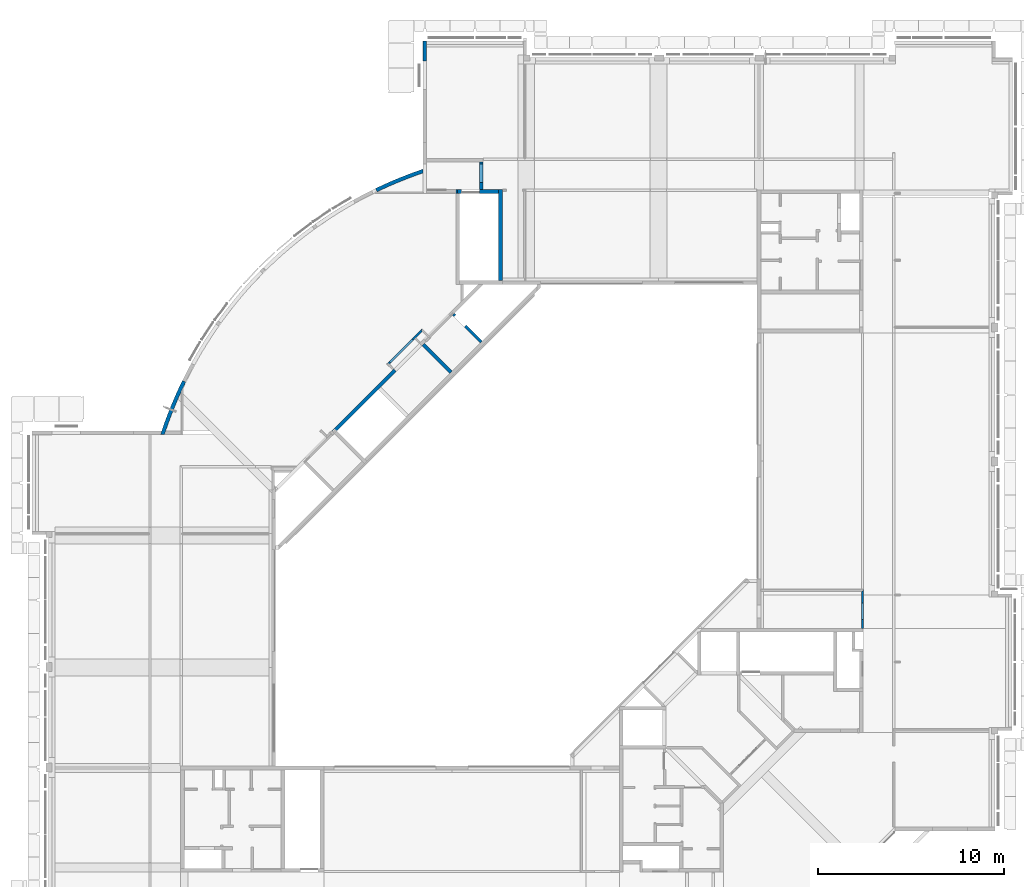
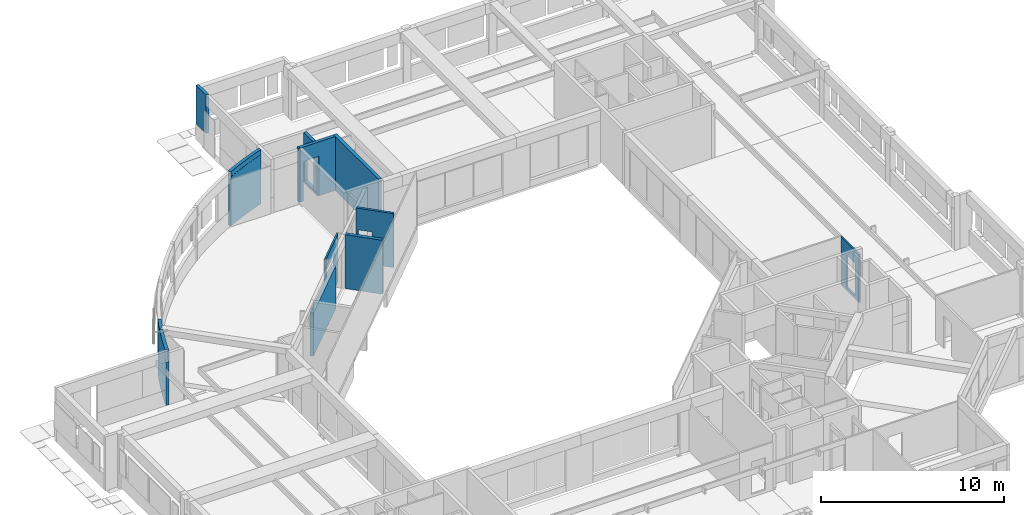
# One storey, part 23 of 26: 12 walls.
"""IFC4X3_ADD2 building model written with IfcOpenShell, lengths in millimetres."""

from ifc_helpers import new_model, si_unit, direction, frame, origin_with_axes, place, context, subcontext, project, spatial, faceted_brep, polygons, source, transform, mapped, type_object, type_shapes, element, save


model = new_model("IFC4X3_ADD2")

# Units and contexts
model_context = context("Model", 3, precision=1e-05, world=origin_with_axes(), true_north=direction((0.0, 1.0)))
body_context = subcontext(model_context, "Body", "Model", "MODEL_VIEW")
ifc_project = project(units=[si_unit("LENGTHUNIT", "METRE", prefix="MILLI"), si_unit("AREAUNIT", "SQUARE_METRE"), si_unit("VOLUMEUNIT", "CUBIC_METRE"), si_unit("PLANEANGLEUNIT", "RADIAN"), si_unit("TIMEUNIT", "SECOND"), si_unit("MASSUNIT", "GRAM")], contexts=[model_context])

# Site, building, storey
site_placement = place(None, origin_with_axes())
site = spatial("IfcSite", under=ifc_project, at=site_placement, Name="Site", CompositionType="ELEMENT")
building_placement = place(site_placement, origin_with_axes())
building = spatial("IfcBuilding", under=site, at=building_placement, Name="IFC Building Story")
storey_placement = place(building_placement, frame((0.0, 0.0, 7200.0), z_axis=(0.0, 0.0, 1.0), x_axis=(1.0, 0.0, 0.0)))
storey = spatial("IfcBuildingStorey", under=building, at=storey_placement, Name="020", Elevation=7200.0)

# Walls
wall_type_1 = type_object("IfcWallType", Name="Basic Wall_BB_10.01.41#21_Gipskartonwand_EI60_43dB_MS100 _ 25.50.25_ 100 mm53", PredefinedType="NOTDEFINED")
shared_shape_1 = source(origin_with_axes(), body_context, "Body", "Brep", [
    faceted_brep([(1999.999999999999, 49.9999999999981, 0.0), (1999.999999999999, 49.9999999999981, 3200.0), (1999.999999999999, 37.4999999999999, 3200.0), (1999.999999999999, 37.4999999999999, 0.0), (-87.50000000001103, 49.9999999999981, 3200.0), (-87.50000000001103, 37.4999999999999, 3200.0), (-87.50000000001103, 49.9999999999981, 0.0), (-87.50000000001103, 37.4999999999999, 0.0), (1524.999999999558, 49.9999999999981, 2359.999999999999), (1524.999999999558, 49.9999999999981, 195.0), (1524.999999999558, 37.4999999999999, 195.0), (1524.999999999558, 37.4999999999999, 2359.999999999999), (634.999999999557, 49.9999999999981, 195.0), (634.999999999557, 37.4999999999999, 195.0), (634.999999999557, 49.9999999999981, 2359.999999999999), (634.999999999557, 37.4999999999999, 2359.999999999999)], [[[0, 1, 2, 3]], [[1, 4, 5, 2]], [[4, 6, 7, 5]], [[6, 0, 3, 7]], [[8, 9, 10, 11]], [[9, 12, 13, 10]], [[12, 14, 15, 13]], [[14, 8, 11, 15]], [[9, 8, 14, 12], [1, 0, 6, 4]], [[15, 11, 10, 13], [7, 3, 2, 5]]], outer=[[True], [True], [True], [True], [True], [True], [True], [True], [False, True], [False, True]]),
    faceted_brep([(1999.999999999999, 37.4999999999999, 0.0), (1999.999999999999, 37.4999999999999, 3200.0), (2000.000000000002, 25.0, 3200.0), (2000.000000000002, 25.0, 0.0), (-74.99999999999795, 37.5000000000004, 3200.0), (-74.99999999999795, 25.0, 3200.0), (-74.99999999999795, 37.5000000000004, 0.0), (-74.99999999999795, 25.0, 0.0), (1524.999999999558, 37.4999999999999, 2359.999999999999), (1524.999999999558, 37.4999999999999, 195.0), (1524.999999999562, 25.0, 195.0), (1524.999999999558, 25.0, 2359.999999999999), (634.999999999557, 37.4999999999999, 195.0), (634.999999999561, 25.0, 195.0), (634.999999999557, 37.4999999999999, 2359.999999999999), (634.999999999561, 25.0, 2359.999999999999)], [[[0, 1, 2, 3]], [[1, 4, 5, 2]], [[4, 6, 7, 5]], [[6, 0, 3, 7]], [[8, 9, 10, 11]], [[9, 12, 13, 10]], [[12, 14, 15, 13]], [[14, 8, 11, 15]], [[9, 8, 14, 12], [1, 0, 6, 4]], [[15, 11, 10, 13], [7, 3, 2, 5]]], outer=[[True], [True], [True], [True], [True], [True], [True], [True], [False, True], [False, True]]),
    faceted_brep([(2000.000000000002, 25.0, 0.0), (2000.000000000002, 25.0, 3200.0), (2000.000000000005, -25.0, 3200.0), (2000.000000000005, -25.0, 0.0), (-24.999999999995, 24.9999999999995, 3200.0), (-24.999999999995, -25.0, 3200.0), (-24.999999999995, 24.9999999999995, 0.0), (-24.999999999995, -25.0, 0.0), (1524.999999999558, 25.0, 2359.999999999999), (1524.999999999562, 25.0, 195.0), (1524.999999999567, -25.0, 195.0), (1524.999999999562, -25.0, 2359.999999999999), (634.999999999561, 25.0, 195.0), (634.9999999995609, -25.0, 195.0), (634.999999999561, 25.0, 2359.999999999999), (634.9999999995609, -25.0, 2359.999999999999)], [[[0, 1, 2, 3]], [[1, 4, 5, 2]], [[4, 6, 7, 5]], [[6, 0, 3, 7]], [[8, 9, 10, 11]], [[9, 12, 13, 10]], [[12, 14, 15, 13]], [[14, 8, 11, 15]], [[9, 8, 14, 12], [1, 0, 6, 4]], [[15, 11, 10, 13], [7, 3, 2, 5]]], outer=[[True], [True], [True], [True], [True], [True], [True], [True], [False, True], [False, True]]),
    faceted_brep([(2000.000000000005, -25.0, 0.0), (2000.000000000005, -25.0, 3200.0), (2000.000000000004, -37.5000000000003, 3200.0), (2000.000000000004, -37.5000000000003, 0.0), (-12.50000000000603, -24.9999999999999, 3200.0), (-12.50000000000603, -37.5000000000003, 3200.0), (-12.50000000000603, -24.9999999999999, 0.0), (-12.50000000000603, -37.5000000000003, 0.0), (1524.999999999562, -25.0, 2359.999999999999), (1524.999999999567, -25.0, 195.0), (1524.999999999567, -37.5000000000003, 195.0), (1524.999999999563, -37.5000000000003, 2359.999999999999), (634.9999999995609, -25.0, 195.0), (634.9999999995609, -37.5000000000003, 195.0), (634.9999999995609, -25.0, 2359.999999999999), (634.9999999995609, -37.5000000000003, 2359.999999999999)], [[[0, 1, 2, 3]], [[1, 4, 5, 2]], [[4, 6, 7, 5]], [[6, 0, 3, 7]], [[8, 9, 10, 11]], [[9, 12, 13, 10]], [[12, 14, 15, 13]], [[14, 8, 11, 15]], [[9, 8, 14, 12], [1, 0, 6, 4]], [[15, 11, 10, 13], [7, 3, 2, 5]]], outer=[[True], [True], [True], [True], [True], [True], [True], [True], [False, True], [False, True]]),
    faceted_brep([(2000.000000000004, -37.5000000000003, 0.0), (2000.000000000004, -37.5000000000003, 3200.0), (2000.0, -50.0, 3200.0), (2000.0, -50.0, 0.0), (0.0, -37.5000000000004, 3200.0), (0.0, -50.0, 3200.0), (0.0, -37.5000000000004, 0.0), (0.0, -50.0, 0.0), (1524.999999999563, -37.5000000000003, 2359.999999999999), (1524.999999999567, -37.5000000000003, 195.0), (1524.999999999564, -50.0, 195.0), (1524.99999999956, -50.0, 2359.999999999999), (634.9999999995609, -37.5000000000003, 195.0), (634.999999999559, -50.0, 195.0), (634.9999999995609, -37.5000000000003, 2359.999999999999), (634.999999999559, -50.0, 2359.999999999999)], [[[0, 1, 2, 3]], [[1, 4, 5, 2]], [[4, 6, 7, 5]], [[6, 0, 3, 7]], [[8, 9, 10, 11]], [[9, 12, 13, 10]], [[12, 14, 15, 13]], [[14, 8, 11, 15]], [[9, 8, 14, 12], [1, 0, 6, 4]], [[15, 11, 10, 13], [7, 3, 2, 5]]], outer=[[True], [True], [True], [True], [True], [True], [True], [True], [False, True], [False, True]]),
])
type_shapes(wall_type_1, [shared_shape_1])
wall_1_placement = place(storey_placement, frame((-7035.0, 22100.0, -200.0), z_axis=(0.0, 0.0, 1.0), x_axis=(0.0, -1.0, 0.0)))
element("IfcWall", 1, at=wall_1_placement, inside=storey, type_object=wall_type_1, Name="Basic Wall:BB_10.01.41#21_Gipskartonwand_EI60_43dB_MS100 / 25.50.25, 100 mm", ObjectType="Basic Wall:BB_10.01.41#21_Gipskartonwand_EI60_43dB_MS100 / 25.50.25, 100 mm", PredefinedType="PARTITIONING", context=body_context, shape_type="MappedRepresentation", body=[
    mapped(shared_shape_1, transform((0.0, 0.0, 0.0))),
])
wall_type_2 = type_object("IfcWallType", Name="Basic Wall_BB_10.01.41#21_Gipskartonwand_EI60_43dB_MS100 _ 25.50.25_ 100 mm57", PredefinedType="NOTDEFINED")
shared_shape_2 = source(origin_with_axes(), body_context, "Body", "Brep", [
    faceted_brep([(-87.50000000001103, 37.4999999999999, 0.0), (-87.50000000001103, 37.4999999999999, 3200.0), (-87.50000000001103, 49.9999999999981, 3200.0), (-87.50000000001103, 49.9999999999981, 0.0), (2568.50000000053, 37.4999999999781, 3200.0), (2568.50000000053, 50.0, 3200.0), (2568.50000000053, 37.4999999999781, 0.0), (2568.50000000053, 50.0, 0.0), (98.00000000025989, 37.4999999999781, 2359.999999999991), (98.00000000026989, 37.4999999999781, 199.99999999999), (98.00000000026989, 50.0, 199.99999999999), (98.00000000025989, 50.0, 2359.999999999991), (1818.00000000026, 37.4999999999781, 199.99999999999), (1818.00000000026, 50.0, 199.99999999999), (1818.00000000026, 37.4999999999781, 2359.999999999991), (1818.00000000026, 50.0, 2359.999999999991)], [[[0, 1, 2, 3]], [[1, 4, 5, 2]], [[4, 6, 7, 5]], [[6, 0, 3, 7]], [[8, 9, 10, 11]], [[9, 12, 13, 10]], [[12, 14, 15, 13]], [[14, 8, 11, 15]], [[9, 8, 14, 12], [1, 0, 6, 4]], [[15, 11, 10, 13], [7, 3, 2, 5]]], outer=[[True], [True], [True], [True], [True], [True], [True], [True], [False, True], [False, True]]),
    faceted_brep([(-74.99999999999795, 25.0, 0.0), (-74.99999999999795, 25.0, 3200.0), (-74.99999999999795, 37.5000000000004, 3200.0), (-74.99999999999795, 37.5000000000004, 0.0), (2556.00000000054, 24.9999999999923, 3200.0), (2556.00000000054, 37.4999999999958, 3200.0), (2556.00000000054, 24.9999999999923, 0.0), (2556.00000000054, 37.4999999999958, 0.0), (98.00000000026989, 24.9999999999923, 2359.999999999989), (98.0000000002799, 24.9999999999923, 199.99999999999), (98.00000000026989, 37.4999999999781, 199.99999999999), (98.00000000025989, 37.4999999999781, 2359.999999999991), (1818.000000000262, 24.9999999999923, 199.99999999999), (1818.00000000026, 37.4999999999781, 199.99999999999), (1818.000000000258, 24.9999999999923, 2359.999999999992), (1818.00000000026, 37.4999999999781, 2359.999999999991)], [[[0, 1, 2, 3]], [[1, 4, 5, 2]], [[4, 6, 7, 5]], [[6, 0, 3, 7]], [[8, 9, 10, 11]], [[9, 12, 13, 10]], [[12, 14, 15, 13]], [[14, 8, 11, 15]], [[9, 8, 14, 12], [1, 0, 6, 4]], [[15, 11, 10, 13], [7, 3, 2, 5]]], outer=[[True], [True], [True], [True], [True], [True], [True], [True], [False, True], [False, True]]),
    faceted_brep([(-24.999999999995, -25.0, 0.0), (-24.999999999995, -25.0, 3200.0), (-24.999999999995, 24.9999999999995, 3200.0), (-24.999999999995, 24.9999999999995, 0.0), (2506.00000000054, -25.0000000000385, 3200.0), (2506.00000000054, 25.0, 3200.0), (2506.00000000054, -25.0000000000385, 0.0), (2506.00000000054, 25.0, 0.0), (98.00000000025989, -25.0000000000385, 2359.999999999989), (98.00000000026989, -25.0000000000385, 199.99999999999), (98.0000000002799, 24.9999999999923, 199.99999999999), (98.00000000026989, 24.9999999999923, 2359.999999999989), (1818.00000000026, -25.0000000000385, 199.99999999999), (1818.000000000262, 24.9999999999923, 199.99999999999), (1818.000000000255, -25.0000000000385, 2359.999999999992), (1818.000000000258, 24.9999999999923, 2359.999999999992)], [[[0, 1, 2, 3]], [[1, 4, 5, 2]], [[4, 6, 7, 5]], [[6, 0, 3, 7]], [[8, 9, 10, 11]], [[9, 12, 13, 10]], [[12, 14, 15, 13]], [[14, 8, 11, 15]], [[9, 8, 14, 12], [1, 0, 6, 4]], [[15, 11, 10, 13], [7, 3, 2, 5]]], outer=[[True], [True], [True], [True], [True], [True], [True], [True], [False, True], [False, True]]),
    faceted_brep([(-12.49999999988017, -37.5000000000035, 0.0), (-12.49999999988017, -37.5000000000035, 3200.0), (-12.49999999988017, -25.0, 3200.0), (-12.49999999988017, -25.0, 0.0), (2493.50000000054, -37.5000000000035, 3200.0), (2493.50000000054, -25.0, 3200.0), (2493.50000000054, -37.5000000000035, 0.0), (2493.50000000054, -25.0, 0.0), (98.00000000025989, -37.5000000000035, 2359.999999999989), (98.00000000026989, -37.5000000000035, 199.99999999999), (98.00000000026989, -25.0000000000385, 199.99999999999), (98.00000000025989, -25.0000000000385, 2359.999999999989), (1818.000000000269, -37.5000000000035, 199.99999999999), (1818.00000000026, -25.0000000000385, 199.99999999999), (1818.000000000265, -37.5000000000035, 2359.999999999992), (1818.000000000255, -25.0000000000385, 2359.999999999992)], [[[0, 1, 2, 3]], [[1, 4, 5, 2]], [[4, 6, 7, 5]], [[6, 0, 3, 7]], [[8, 9, 10, 11]], [[9, 12, 13, 10]], [[12, 14, 15, 13]], [[14, 8, 11, 15]], [[9, 8, 14, 12], [1, 0, 6, 4]], [[15, 11, 10, 13], [7, 3, 2, 5]]], outer=[[True], [True], [True], [True], [True], [True], [True], [True], [False, True], [False, True]]),
    faceted_brep([(1.298303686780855e-10, -50.0000000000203, 0.0), (1.298303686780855e-10, -50.0000000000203, 3200.0), (1.298303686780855e-10, -37.5000000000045, 3200.0), (1.298303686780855e-10, -37.5000000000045, 0.0), (2481.00000000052, -50.0000000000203, 3200.0), (2481.00000000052, -37.5000000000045, 3200.0), (2481.00000000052, -50.0000000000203, 0.0), (2481.00000000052, -37.5000000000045, 0.0), (98.00000000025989, -50.0000000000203, 2359.999999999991), (98.00000000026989, -50.0000000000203, 199.99999999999), (98.00000000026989, -37.5000000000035, 199.99999999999), (98.00000000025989, -37.5000000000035, 2359.999999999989), (1818.000000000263, -50.0000000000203, 199.99999999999), (1818.000000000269, -37.5000000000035, 199.99999999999), (1818.000000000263, -50.0000000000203, 2359.999999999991), (1818.000000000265, -37.5000000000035, 2359.999999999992)], [[[0, 1, 2, 3]], [[1, 4, 5, 2]], [[4, 6, 7, 5]], [[6, 0, 3, 7]], [[8, 9, 10, 11]], [[9, 12, 13, 10]], [[12, 14, 15, 13]], [[14, 8, 11, 15]], [[9, 8, 14, 12], [1, 0, 6, 4]], [[15, 11, 10, 13], [7, 3, 2, 5]]], outer=[[True], [True], [True], [True], [True], [True], [True], [True], [False, True], [False, True]]),
])
type_shapes(wall_type_2, [shared_shape_2])
wall_2_placement = place(storey_placement, frame((-32508.6939417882, 34352.8284271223, -200.0), z_axis=(0.0, 0.0, 1.0), x_axis=(0.7071067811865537, 0.7071067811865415, 0.0)))
element("IfcWall", 2, at=wall_2_placement, inside=storey, type_object=wall_type_2, Name="Basic Wall:BB_10.01.41#21_Gipskartonwand_EI60_43dB_MS100 / 25.50.25, 100 mm", ObjectType="Basic Wall:BB_10.01.41#21_Gipskartonwand_EI60_43dB_MS100 / 25.50.25, 100 mm", PredefinedType="PARTITIONING", context=body_context, shape_type="MappedRepresentation", body=[
    mapped(shared_shape_2, transform((0.0, 0.0, 0.0))),
])
wall_3_placement = place(storey_placement, frame((0.0, 0.0, -7200.0), z_axis=(0.0, 0.0, 1.0), x_axis=(1.0, 0.0, 0.0)))
element("IfcWall", 3, at=wall_3_placement, inside=storey, Name="Basic Wall:BB_XX_Wand uit beton, 190 mm", ObjectType="Basic Wall:BB_XX_Wand uit beton, 190 mm", PredefinedType="SOLIDWALL", context=body_context, shape_type="Tessellation", body=[
    polygons([(-30470.0, 50605.0, 8040.0), (-30470.0, 51695.00000000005, 8040.0), (-30470.0, 51695.00000000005, 9880.0), (-30470.0, 51355.00000000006, 9880.0), (-30470.0, 51355.00000000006, 10600.0), (-30470.0, 50605.0, 10600.0), (-30660.0, 51695.00000000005, 8040.0), (-30660.0, 50605.0, 8040.0), (-30660.0, 50605.0, 10600.0), (-30660.0, 51695.00000000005, 10600.0), (-30505.0, 51695.00000000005, 10600.0), (-30505.0, 51695.00000000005, 9880.0), (-30505.0, 51355.00000000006, 10600.0), (-30505.0, 51355.00000000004, 9880.0)], [[[4, 5, 6]], [[4, 6, 1]], [[4, 1, 2]], [[2, 3, 4]], [[7, 8, 9, 10]], [[2, 1, 8, 7]], [[12, 3, 2]], [[12, 2, 7]], [[12, 7, 10]], [[10, 11, 12]], [[13, 11, 10]], [[10, 9, 6]], [[10, 6, 13]], [[6, 5, 13]], [[1, 6, 9, 8]], [[14, 12, 11, 13]], [[14, 13, 5, 4]], [[12, 14, 4, 3]]]),
])
wall_4_placement = place(storey_placement, frame((0.0, 0.0, -7200.0), z_axis=(0.0, 0.0, 1.0), x_axis=(1.0, 0.0, 0.0)))
element("IfcWall", 4, at=wall_4_placement, inside=storey, Name="Basic Wall:BB_XX_Wand uit beton, 200 mm", ObjectType="Basic Wall:BB_XX_Wand uit beton, 200 mm", PredefinedType="SOLIDWALL", context=body_context, shape_type="Tessellation", body=[
    polygons([(-43812.1704731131, 32998.44573646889, 10600.0), (-44012.67220391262, 32551.85921832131, 10600.0), (-44203.34841765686, 32100.99018382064, 10600.0), (-44384.10764517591, 31646.05496287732, 10600.0), (-44554.86327976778, 31187.27158464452, 10600.0), (-44715.53019044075, 30724.86980580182, 10600.0), (-44573.63043618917, 30724.86980580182, 10600.0), (-44573.63043618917, 30535.00000000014, 10600.0), (-44567.82110497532, 30535.0, 10600.0), (-44404.40198922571, 31013.85617310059, 10600.0), (-44230.09169767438, 31488.85613337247, 10600.0), (-44044.98111867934, 31959.75220797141, 10600.0), (-43849.16677271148, 32426.29886211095, 10600.0), (-43960.38058231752, 32537.51267171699, 10600.0), (-43677.5378698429, 32820.35538419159, 10600.0), (-43675.03030631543, 32817.84782066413, 10600.0), (-43550.43971641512, 33086.09656748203, 10600.0), (-43422.27232708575, 33352.67344269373, 10600.0), (-43601.93894298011, 33440.53644476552, 10600.0), (-43960.38058231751, 32537.51267171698, 10200.0), (-43849.16677271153, 32426.29886211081, 10200.0), (-43827.75401475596, 32475.56384844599, 10200.0), (-43806.22232952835, 32524.77577516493, 10200.0), (-43765.0960934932, 32617.88120422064, 10200.0), (-43723.54264312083, 32710.79666560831, 10200.0), (-43699.35768854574, 32764.35388545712, 10200.0), (-43675.03030631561, 32817.84782066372, 10200.0), (-43677.53786984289, 32820.3553841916, 10200.0), (-44778.23882673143, 30535.0, 9880.0), (-44573.63043618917, 30535.00000000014, 9880.0), (-44573.63043618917, 30724.86980580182, 9880.0), (-44715.53019044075, 30724.86980580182, 9880.0), (-44747.09676895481, 30630.00500650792, 9880.0), (-44567.82110497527, 30535.00000000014, 7000.0), (-44778.23882673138, 30535.00000000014, 7000.0), (-44747.07314592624, 30630.07653213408, 7000.0), (-44715.48056955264, 30725.01720051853, 7000.0), (-44554.82197247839, 31187.38639688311, 7000.0), (-44384.072596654, 31646.14606650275, 7000.0), (-44203.32064193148, 32101.05791901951, 7000.0), (-44012.65270281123, 32551.90395836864, 7000.0), (-43812.16023545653, 32998.46788699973, 7000.0), (-43601.93894298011, 33440.53644476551, 7000.0), (-43422.27232708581, 33352.6734426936, 7000.0), (-43575.47773814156, 33032.9347196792, 7000.0), (-43723.54163191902, 32710.7985935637, 7000.0), (-43765.09653480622, 32617.88021131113, 7000.0), (-43806.22398682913, 32524.77185316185, 7000.0), (-43958.3736889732, 32169.79590033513, 7000.0), (-44104.31339025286, 31812.22194755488, 7000.0), (-44243.9987500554, 31452.15879022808, 7000.0), (-44377.38709278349, 31089.71649383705, 7000.0), (-44504.43565790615, 30725.01160581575, 7000.0), (-44536.3433564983, 30630.07678058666, 7000.0), (-44567.82110497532, 30535.0, 10450.0), (-43422.27232708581, 33352.67344269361, 8040.0), (-43601.93894298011, 33440.53644476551, 8040.0), (-44778.23882673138, 30535.00000000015, 8040.0)], [[[7, 8, 9]], [[7, 9, 10]], [[10, 5, 6]], [[10, 6, 7]], [[10, 11, 4]], [[10, 4, 5]], [[11, 12, 3]], [[11, 3, 4]], [[12, 13, 14]], [[12, 14, 2]], [[12, 2, 3]], [[15, 16, 1]], [[1, 2, 14]], [[1, 14, 15]], [[17, 18, 19]], [[17, 19, 1]], [[1, 16, 17]], [[26, 27, 28]], [[28, 25, 26]], [[25, 28, 20]], [[20, 24, 25]], [[20, 23, 24]], [[20, 22, 23]], [[20, 21, 22]], [[33, 29, 30]], [[33, 30, 31]], [[31, 32, 33]], [[42, 43, 44]], [[42, 44, 45]], [[47, 48, 41]], [[41, 42, 46]], [[41, 46, 47]], [[42, 45, 46]], [[48, 49, 40]], [[48, 40, 41]], [[50, 51, 39]], [[50, 39, 40]], [[40, 49, 50]], [[51, 52, 38]], [[51, 38, 39]], [[53, 54, 37]], [[37, 38, 52]], [[37, 52, 53]], [[54, 34, 36]], [[54, 36, 37]], [[34, 35, 36]], [[55, 10, 9]], [[10, 55, 53]], [[12, 11, 50]], [[12, 21, 13]], [[11, 10, 52]], [[12, 50, 21]], [[34, 54, 55]], [[54, 53, 55]], [[53, 52, 10]], [[52, 51, 11]], [[11, 51, 50]], [[50, 49, 21]], [[49, 48, 21]], [[47, 24, 23]], [[48, 23, 22]], [[18, 17, 56]], [[27, 17, 16]], [[46, 25, 24]], [[48, 47, 23]], [[46, 26, 25]], [[46, 24, 47]], [[46, 56, 26]], [[46, 45, 56]], [[17, 27, 56]], [[56, 45, 44]], [[27, 26, 56]], [[21, 48, 22]], [[56, 44, 43]], [[56, 43, 57]], [[57, 19, 18]], [[57, 18, 56]], [[57, 43, 42, 1]], [[2, 41, 40]], [[42, 41, 1]], [[3, 40, 39]], [[19, 57, 1]], [[1, 41, 2]], [[40, 3, 2]], [[39, 4, 3]], [[38, 37, 58]], [[36, 35, 58]], [[36, 58, 37]], [[38, 58, 32]], [[4, 38, 5]], [[6, 5, 32]], [[33, 32, 58]], [[29, 33, 58]], [[38, 32, 5]], [[38, 4, 39]], [[15, 14, 20, 28]], [[14, 13, 21, 20]], [[28, 27, 16, 15]], [[58, 35, 34]], [[34, 30, 29]], [[34, 29, 58]], [[34, 55, 30]], [[55, 9, 8]], [[8, 30, 55]], [[32, 31, 7, 6]], [[31, 30, 8, 7]]]),
])
wall_5_placement = place(storey_placement, frame((0.0, 0.0, -7200.0), z_axis=(0.0, 0.0, 1.0), x_axis=(1.0, 0.0, 0.0)))
element("IfcWall", 5, at=wall_5_placement, inside=storey, Name="Basic Wall:BB_XX_Wand uit beton, 200 mm", ObjectType="Basic Wall:BB_XX_Wand uit beton, 200 mm", PredefinedType="SOLIDWALL", context=body_context, shape_type="Tessellation", body=[
    polygons([(-35435.40890911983, 30577.58532236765, 6999.999999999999), (-35293.98755288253, 30719.00667860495, 7000.0), (-32095.03647479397, 33917.9577566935, 6999.999999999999), (-32095.03647479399, 33917.95775669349, 7200.0), (-32095.03647479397, 33917.95775669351, 9689.0), (-32155.14055119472, 33857.85368029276, 9689.0), (-32155.14055119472, 33857.85368029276, 9880.0), (-35435.40890911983, 30577.58532236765, 9880.0), (-35576.83026535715, 30719.00667860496, 6999.999999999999), (-35576.83026535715, 30719.00667860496, 9880.0), (-32296.56190743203, 33999.27503653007, 9880.0), (-32296.56190743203, 33999.27503653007, 9689.0), (-32236.45783103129, 34059.37911293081, 9689.0), (-32236.45783103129, 34059.37911293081, 7200.0), (-32236.45783103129, 34059.37911293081, 6999.999999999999)], [[[6, 7, 8]], [[8, 2, 4]], [[8, 4, 6]], [[4, 5, 6]], [[2, 3, 4]], [[8, 1, 2]], [[14, 15, 12]], [[12, 13, 14]], [[12, 15, 9]], [[12, 9, 10]], [[10, 11, 12]], [[2, 1, 9]], [[9, 15, 3]], [[9, 3, 2]], [[7, 6, 12, 11]], [[8, 7, 11, 10]], [[1, 8, 10, 9]], [[6, 5, 13, 12]], [[4, 3, 15]], [[4, 15, 14]], [[14, 13, 5]], [[14, 5, 4]]]),
])
wall_6_placement = place(storey_placement, frame((0.0, 0.0, -7200.0), z_axis=(0.0, 0.0, 1.0), x_axis=(1.0, 0.0, 0.0)))
element("IfcWall", 6, at=wall_6_placement, inside=storey, Name="Basic Wall:BB_XX_Wand uit beton, 200 mm", ObjectType="Basic Wall:BB_XX_Wand uit beton, 200 mm", PredefinedType="SOLIDWALL", context=body_context, shape_type="Tessellation", body=[
    polygons([(-30719.00667860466, 35293.98755288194, 10600.0), (-30719.00667860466, 35293.98755288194, 6999.999999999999), (-29234.08243811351, 33809.06331239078, 6999.999999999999), (-29234.08243811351, 33809.06331239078, 10600.0), (-30577.58532236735, 35435.40890911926, 6999.999999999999), (-30577.58532236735, 35435.40890911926, 10600.0), (-29092.66108187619, 33950.48466862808, 10600.0), (-29092.66108187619, 33950.48466862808, 6999.999999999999)], [[[1, 2, 3, 4]], [[5, 6, 7, 8]], [[2, 5, 8, 3]], [[6, 1, 4, 7]], [[2, 1, 6, 5]], [[4, 3, 8, 7]]]),
])
wall_7_placement = place(storey_placement, frame((0.0, 0.0, -7200.0), z_axis=(0.0, 0.0, 1.0), x_axis=(1.0, 0.0, 0.0)))
element("IfcWall", 7, at=wall_7_placement, inside=storey, Name="Basic Wall:BB_XX_Wand uit beton, 200 mm", ObjectType="Basic Wall:BB_XX_Wand uit beton, 200 mm", PredefinedType="SOLIDWALL", context=body_context, shape_type="Tessellation", body=[
    polygons([(-26600.0, 43700.0, 10720.0), (-26600.0, 43700.0, 7120.0), (-26600.0, 43500.0, 7120.0), (-26600.00000000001, 38799.99593411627, 7120.0), (-26600.00000000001, 38799.99593411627, 10720.0), (-26600.0, 43500.0, 10720.0), (-26400.0, 43700.0, 7120.0), (-26400.0, 43700.0, 10720.0), (-26400.0, 38799.99593411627, 10720.0), (-26400.0, 38799.99593411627, 7120.0)], [[[3, 4, 5]], [[3, 5, 6]], [[6, 1, 2]], [[6, 2, 3]], [[7, 8, 9, 10]], [[3, 2, 7]], [[7, 10, 4]], [[7, 4, 3]], [[6, 5, 9]], [[6, 9, 8]], [[8, 1, 6]], [[2, 1, 8, 7]], [[5, 4, 10, 9]]]),
])
wall_8_placement = place(storey_placement, frame((0.0, 0.0, -7200.0), z_axis=(0.0, 0.0, 1.0), x_axis=(1.0, 0.0, 0.0)))
element("IfcWall", 8, at=wall_8_placement, inside=storey, Name="Basic Wall:BB_XX_Wand uit beton, 200 mm", ObjectType="Basic Wall:BB_XX_Wand uit beton, 200 mm", PredefinedType="SOLIDWALL", context=body_context, shape_type="Tessellation", body=[
    polygons([(-28900.0, 43500.00000000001, 10720.0), (-28900.0, 43500.00000000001, 7120.0), (-28700.0, 43500.00000000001, 7120.0), (-28600.00000000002, 43500.00000000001, 7120.0), (-28600.00000000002, 43500.00000000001, 9750.000000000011), (-27640.00000006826, 43500.00000000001, 9750.000000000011), (-27640.00000006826, 43500.00000000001, 7120.0), (-26600.00000000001, 43500.00000000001, 7120.0), (-26600.00000000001, 43500.00000000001, 10720.0), (-28700.0, 43500.00000000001, 10720.0), (-28900.0, 43700.0, 7120.0), (-28900.0, 43700.0, 10720.0), (-26600.00000000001, 43700.0, 10720.0), (-26600.00000000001, 43700.0, 7120.0), (-27640.00000006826, 43700.0, 7120.0), (-27640.00000006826, 43700.0, 9750.000000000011), (-28600.00000000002, 43700.0, 9750.000000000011), (-28600.00000000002, 43700.0, 7120.0)], [[[6, 7, 8]], [[6, 8, 9]], [[9, 10, 5]], [[9, 5, 6]], [[10, 3, 4]], [[10, 4, 5]], [[10, 1, 2]], [[10, 2, 3]], [[17, 18, 11]], [[17, 11, 12]], [[12, 13, 16]], [[12, 16, 17]], [[13, 14, 15]], [[13, 15, 16]], [[3, 2, 11]], [[3, 11, 18]], [[18, 4, 3]], [[10, 9, 13]], [[10, 13, 12]], [[12, 1, 10]], [[5, 4, 18, 17]], [[6, 5, 17, 16]], [[8, 7, 15, 14]], [[1, 12, 11, 2]], [[8, 14, 13, 9]], [[7, 6, 16, 15]]]),
])
wall_9_placement = place(storey_placement, frame((0.0, 0.0, -7200.0), z_axis=(0.0, 0.0, 1.0), x_axis=(1.0, 0.0, 0.0)))
element("IfcWall", 9, at=wall_9_placement, inside=storey, Name="Basic Wall:BB_XX_Wand uit beton, 200 mm", ObjectType="Basic Wall:BB_XX_Wand uit beton, 200 mm", PredefinedType="SOLIDWALL", context=body_context, shape_type="Tessellation", body=[
    polygons([(-28800.0, 43500.00000000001, 7120.0), (-28700.0, 43500.00000000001, 7120.0), (-28600.00000000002, 43500.00000000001, 7120.0), (-28600.00000000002, 43500.00000000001, 9750.000000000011), (-27640.00000000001, 43500.00000000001, 9750.000000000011), (-27625.00000006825, 43500.00000000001, 9750.000000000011), (-27625.00000006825, 43500.00000000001, 7120.0), (-26600.00000000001, 43500.00000000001, 7120.0), (-26600.00000000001, 43500.00000000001, 10720.0), (-28700.0, 43500.00000000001, 10720.0), (-28800.0, 43500.00000000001, 10720.0), (-28600.00000000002, 43700.0, 7120.0), (-28800.0, 43700.0, 7120.0), (-28800.0, 43700.0, 10720.0), (-26600.00000000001, 43700.0, 10720.0), (-26600.00000000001, 43700.0, 7120.0), (-27625.00000006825, 43700.0, 7120.0), (-27625.00000006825, 43700.0, 9750.000000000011), (-27640.00000000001, 43700.0, 9750.000000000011), (-28600.00000000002, 43700.0, 9750.000000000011)], [[[6, 7, 8]], [[6, 8, 9]], [[9, 5, 6]], [[9, 10, 4]], [[9, 4, 5]], [[10, 2, 3]], [[10, 3, 4]], [[10, 11, 1]], [[10, 1, 2]], [[20, 12, 13]], [[20, 13, 14]], [[14, 15, 19]], [[14, 19, 20]], [[15, 18, 19]], [[15, 16, 17]], [[15, 17, 18]], [[2, 1, 13]], [[2, 13, 12]], [[12, 3, 2]], [[10, 9, 15]], [[10, 15, 14]], [[14, 11, 10]], [[4, 3, 12, 20]], [[19, 18, 6]], [[19, 6, 5]], [[5, 4, 20]], [[5, 20, 19]], [[8, 7, 17, 16]], [[11, 14, 13, 1]], [[8, 16, 15, 9]], [[7, 6, 18, 17]]]),
])
wall_10_placement = place(storey_placement, frame((0.0, 0.0, -7200.0), z_axis=(0.0, 0.0, 1.0), x_axis=(1.0, 0.0, 0.0)))
element("IfcWall", 10, at=wall_10_placement, inside=storey, Name="Basic Wall:BB_XX_Wand uit beton, 200 mm", ObjectType="Basic Wall:BB_XX_Wand uit beton, 200 mm", PredefinedType="SOLIDWALL", context=body_context, shape_type="Tessellation", body=[
    polygons([(-33223.83341677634, 43759.31971575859, 10600.0), (-33141.3433668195, 43588.16074971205, 10600.0), (-32736.60607469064, 43778.21797262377, 10600.0), (-32328.11778977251, 43960.07325768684, 10600.0), (-31916.04470261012, 44133.65261837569, 10600.0), (-31500.5544621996, 44298.88543516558, 10600.0), (-31081.81610778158, 44455.70448426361, 10600.0), (-30660.00000006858, 44604.04596495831, 10600.0), (-30660.00000006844, 44804.65227186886, 10600.0), (-31095.99861956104, 44652.6203652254, 10600.0), (-31528.76463714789, 44491.61703961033, 10600.0), (-31958.1134727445, 44321.71096494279, 10600.0), (-32383.86200373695, 44142.97460827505, 10600.0), (-32805.82864308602, 43955.48420288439, 10600.0), (-30660.00000006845, 44593.48226699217, 10270.0), (-30660.00000006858, 44604.04596500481, 10270.0), (-31081.81975661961, 44455.70315956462, 10270.0), (-31500.55697975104, 44298.88446327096, 10270.0), (-31916.04616644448, 44133.65201906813, 10270.0), (-32328.1178937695, 43960.07321263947, 10270.0), (-32736.605404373, 43778.21827918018, 10270.0), (-33141.34336681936, 43588.16074971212, 10270.0), (-33137.00178524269, 43579.15238307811, 10270.0), (-32732.96298829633, 43768.88791830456, 10270.0), (-32325.18419299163, 43950.44610970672, 10270.0), (-31913.83088034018, 44123.75327902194, 10270.0), (-31499.06998193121, 44288.73909634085, 10270.0), (-31081.0698121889, 44445.336608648, 10270.0), (-31528.76463714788, 44491.61703961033, 7000.0), (-31095.99861956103, 44652.62036522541, 7000.0), (-30660.00000006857, 44804.65227186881, 7000.0), (-30660.00000006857, 44593.48226699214, 7000.0), (-31081.06981218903, 44445.33660864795, 7000.0), (-31499.06998193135, 44288.7390963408, 7000.0), (-31913.8308803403, 44123.75327902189, 7000.0), (-32325.18419299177, 43950.44610970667, 7000.0), (-32732.96298829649, 43768.88791830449, 7000.0), (-33137.00178524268, 43579.1523830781, 7000.0), (-33223.83341677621, 43759.31971575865, 7000.0), (-32805.82864308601, 43955.48420288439, 7000.0), (-32383.86200373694, 44142.97460827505, 7000.0), (-31958.11347274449, 44321.71096494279, 7000.0)], [[[7, 8, 9]], [[7, 9, 10]], [[10, 11, 6]], [[10, 6, 7]], [[11, 12, 5]], [[11, 5, 6]], [[12, 13, 4]], [[12, 4, 5]], [[13, 14, 3]], [[13, 3, 4]], [[14, 1, 2]], [[14, 2, 3]], [[21, 22, 23]], [[21, 23, 24]], [[24, 25, 20]], [[24, 20, 21]], [[25, 26, 19]], [[25, 19, 20]], [[26, 27, 18]], [[26, 18, 19]], [[27, 28, 17]], [[27, 17, 18]], [[28, 15, 16]], [[28, 16, 17]], [[30, 31, 32]], [[30, 32, 33]], [[33, 34, 29]], [[33, 29, 30]], [[37, 38, 39]], [[37, 39, 40]], [[40, 41, 36]], [[40, 36, 37]], [[41, 42, 35]], [[41, 35, 36]], [[42, 29, 34]], [[42, 34, 35]], [[10, 9, 31, 30]], [[11, 10, 30, 29]], [[12, 11, 29, 42]], [[14, 13, 41, 40]], [[1, 14, 40, 39]], [[42, 41, 13, 12]], [[22, 2, 1]], [[1, 39, 38]], [[1, 38, 22]], [[38, 23, 22]], [[37, 36, 25, 24]], [[38, 37, 24, 23]], [[35, 26, 25, 36]], [[33, 32, 15, 28]], [[34, 33, 28, 27]], [[34, 27, 26, 35]], [[16, 15, 32]], [[16, 32, 31]], [[16, 31, 9]], [[9, 8, 16]], [[3, 2, 22, 21]], [[4, 3, 21, 20]], [[20, 19, 5, 4]], [[7, 6, 18, 17]], [[8, 7, 17, 16]], [[19, 18, 6, 5]]]),
])
wall_11_placement = place(storey_placement, frame((0.0, 0.0, -7200.0), z_axis=(0.0, 0.0, 1.0), x_axis=(1.0, 0.0, 0.0)))
element("IfcWall", 11, at=wall_11_placement, inside=storey, Name="Basic Wall:BB_03.09.24#02_Wand uit metselwerk_EI60_43dB, 140 mm", ObjectType="Basic Wall:BB_03.09.24#02_Wand uit metselwerk_EI60_43dB, 140 mm", PredefinedType="SOLIDWALL", context=body_context, shape_type="Tessellation", body=[
    polygons([(-27579.45257014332, 35449.5510447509, 7200.0), (-27579.45257014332, 35449.5510447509, 10800.0), (-29071.44787843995, 36941.54635304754, 10800.0), (-29071.44787843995, 36941.54635304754, 7200.0), (-29000.73720032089, 36870.83567492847, 7200.0), (-29000.73720032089, 36870.83567492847, 9360.0), (-28442.12284318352, 36312.2213177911, 9360.0), (-28442.12284318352, 36312.2213177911, 7200.0), (-27480.45762077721, 35548.54599411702, 10800.0), (-27480.45762077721, 35548.54599411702, 7200.0), (-28343.1278938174, 36411.21626715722, 7200.0), (-28343.12789381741, 36411.21626715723, 9360.0), (-28901.74225095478, 36969.8306242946, 9360.0), (-28901.74225095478, 36969.83062429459, 7200.0), (-28972.45292907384, 37040.54130241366, 7200.0), (-28972.45292907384, 37040.54130241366, 10800.0)], [[[7, 8, 1]], [[7, 1, 2]], [[2, 3, 7]], [[3, 6, 7]], [[6, 3, 4]], [[4, 5, 6]], [[13, 14, 15]], [[15, 16, 13]], [[16, 12, 13]], [[12, 16, 9]], [[9, 10, 11]], [[9, 11, 12]], [[4, 15, 14, 5]], [[2, 1, 10, 9]], [[3, 2, 9, 16]], [[4, 3, 16, 15]], [[12, 7, 6, 13]], [[13, 6, 5, 14]], [[7, 12, 11, 8]], [[10, 1, 8, 11]]]),
])
wall_12_placement = place(storey_placement, frame((0.0, 0.0, -7200.0), z_axis=(0.0, 0.0, 1.0), x_axis=(1.0, 0.0, 0.0)))
element("IfcWall", 12, at=wall_12_placement, inside=storey, Name="Basic Wall:BB_03.09.24#06_Wand uit metselwerk_EI60_43dB, 190 mm", ObjectType="Basic Wall:BB_03.09.24#06_Wand uit metselwerk_EI60_43dB, 190 mm", PredefinedType="SOLIDWALL", context=body_context, shape_type="Tessellation", body=[
    polygons([(-27625.0, 45185.0, 6999.999999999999), (-27625.0, 43700.00000000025, 6999.999999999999), (-27625.0, 43700.00000000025, 10340.0), (-27625.0, 45185.0, 10340.0), (-27625.0, 45185.0, 7195.0), (-27625.0, 45085.0, 7195.0), (-27625.0, 45085.0, 9360.0), (-27625.0, 44095.0, 9360.0), (-27625.0, 44095.0, 7195.0), (-27625.0, 43715.00000000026, 7195.0), (-27625.0, 43715.00000000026, 7170.0), (-27625.0, 45185.0, 7170.0), (-27435.0, 43700.00000000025, 6999.999999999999), (-27435.0, 45185.0, 6999.999999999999), (-27435.0, 45185.0, 7170.0), (-27435.0, 43715.00000000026, 7170.0), (-27435.0, 43715.00000000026, 7195.0), (-27435.0, 44095.0, 7195.0), (-27435.0, 44095.0, 9360.0), (-27435.0, 45085.0, 9360.0), (-27435.0, 45085.0, 7195.0), (-27435.0, 45185.0, 7195.0), (-27435.0, 45185.0, 10340.0), (-27435.0, 43700.00000000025, 10340.0)], [[[11, 12, 1]], [[11, 1, 2]], [[2, 10, 11]], [[10, 2, 3]], [[3, 8, 9]], [[3, 9, 10]], [[3, 4, 7]], [[3, 7, 8]], [[4, 5, 6]], [[4, 6, 7]], [[20, 21, 22]], [[20, 22, 23]], [[23, 24, 19]], [[23, 19, 20]], [[24, 17, 18]], [[24, 18, 19]], [[24, 16, 17]], [[24, 13, 16]], [[13, 14, 15]], [[13, 15, 16]], [[2, 1, 14, 13]], [[3, 2, 13, 24]], [[4, 3, 24, 23]], [[14, 1, 12, 15]], [[11, 16, 15, 12]], [[17, 10, 9, 18]], [[16, 11, 10, 17]], [[19, 8, 7, 20]], [[20, 7, 6, 21]], [[8, 19, 18, 9]], [[5, 22, 21, 6]], [[4, 23, 22, 5]]]),
])

save(model, "model.ifc")
